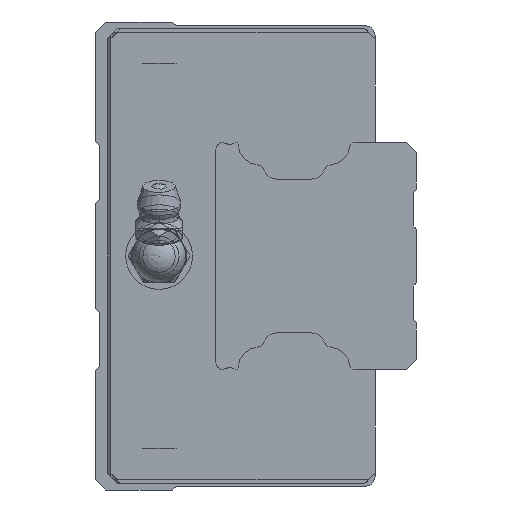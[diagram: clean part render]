
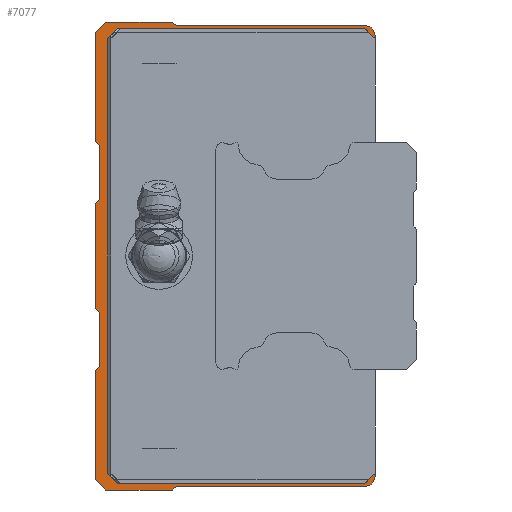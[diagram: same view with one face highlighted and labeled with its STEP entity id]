
A CAD part, left-side view. The second image highlights one B-rep face of the part: STEP entity #7077.
In plain terms, the highlighted planar face has unit normal (-1, 0, 0).
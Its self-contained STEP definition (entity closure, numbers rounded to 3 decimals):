
#78=LINE('',#11078,#556);
#87=LINE('',#11098,#565);
#96=LINE('',#11116,#574);
#122=LINE('',#11172,#600);
#130=LINE('',#11189,#608);
#138=LINE('',#11206,#616);
#163=LINE('',#11257,#641);
#168=LINE('',#11267,#646);
#172=LINE('',#11274,#650);
#176=LINE('',#11281,#654);
#180=LINE('',#11290,#658);
#183=LINE('',#11296,#661);
#187=LINE('',#11308,#665);
#191=LINE('',#11323,#669);
#195=LINE('',#11335,#673);
#198=LINE('',#11341,#676);
#201=LINE('',#11347,#679);
#204=LINE('',#11357,#682);
#207=LINE('',#11363,#685);
#211=LINE('',#11375,#689);
#215=LINE('',#11387,#693);
#218=LINE('',#11397,#696);
#221=LINE('',#11403,#699);
#225=LINE('',#11415,#703);
#229=LINE('',#11427,#707);
#232=LINE('',#11437,#710);
#556=VECTOR('',#8581,1000.);
#565=VECTOR('',#8596,1000.);
#574=VECTOR('',#8609,1000.);
#600=VECTOR('',#8649,1000.);
#608=VECTOR('',#8661,1000.);
#616=VECTOR('',#8675,1000.);
#641=VECTOR('',#8716,1000.);
#646=VECTOR('',#8723,1000.);
#650=VECTOR('',#8729,1000.);
#654=VECTOR('',#8735,1000.);
#658=VECTOR('',#8741,1000.);
#661=VECTOR('',#8746,1000.);
#665=VECTOR('',#8758,1000.);
#669=VECTOR('',#8776,1000.);
#673=VECTOR('',#8788,1000.);
#676=VECTOR('',#8793,1000.);
#679=VECTOR('',#8798,1000.);
#682=VECTOR('',#8807,1000.);
#685=VECTOR('',#8812,1000.);
#689=VECTOR('',#8824,1000.);
#693=VECTOR('',#8836,1000.);
#696=VECTOR('',#8845,1000.);
#699=VECTOR('',#8850,1000.);
#703=VECTOR('',#8862,1000.);
#707=VECTOR('',#8874,1000.);
#710=VECTOR('',#8883,1000.);
#1066=PLANE('',#7607);
#1597=CIRCLE('',#7563,0.5);
#1599=CIRCLE('',#7567,1.5);
#1601=CIRCLE('',#7570,1.5);
#1603=CIRCLE('',#7574,0.5);
#1607=CIRCLE('',#7584,0.5);
#1609=CIRCLE('',#7588,0.5);
#1613=CIRCLE('',#7596,0.5);
#1615=CIRCLE('',#7600,0.5);
#2347=ORIENTED_EDGE('',*,*,#4029,.T.);
#2348=ORIENTED_EDGE('',*,*,#4038,.T.);
#2349=ORIENTED_EDGE('',*,*,#4113,.F.);
#2350=ORIENTED_EDGE('',*,*,#4137,.F.);
#2351=ORIENTED_EDGE('',*,*,#4134,.F.);
#2352=ORIENTED_EDGE('',*,*,#4131,.T.);
#2353=ORIENTED_EDGE('',*,*,#4128,.F.);
#2354=ORIENTED_EDGE('',*,*,#4125,.F.);
#2355=ORIENTED_EDGE('',*,*,#4121,.F.);
#2356=ORIENTED_EDGE('',*,*,#4199,.F.);
#2357=ORIENTED_EDGE('',*,*,#4194,.F.);
#2358=ORIENTED_EDGE('',*,*,#4191,.T.);
#2359=ORIENTED_EDGE('',*,*,#4188,.F.);
#2360=ORIENTED_EDGE('',*,*,#4185,.T.);
#2361=ORIENTED_EDGE('',*,*,#4182,.F.);
#2362=ORIENTED_EDGE('',*,*,#4179,.F.);
#2363=ORIENTED_EDGE('',*,*,#4174,.F.);
#2364=ORIENTED_EDGE('',*,*,#4171,.T.);
#2365=ORIENTED_EDGE('',*,*,#4168,.F.);
#2366=ORIENTED_EDGE('',*,*,#4165,.T.);
#2367=ORIENTED_EDGE('',*,*,#4162,.F.);
#2368=ORIENTED_EDGE('',*,*,#4159,.F.);
#2369=ORIENTED_EDGE('',*,*,#4154,.F.);
#2370=ORIENTED_EDGE('',*,*,#4151,.F.);
#2371=ORIENTED_EDGE('',*,*,#4148,.F.);
#2372=ORIENTED_EDGE('',*,*,#4145,.T.);
#2373=ORIENTED_EDGE('',*,*,#4142,.F.);
#2374=ORIENTED_EDGE('',*,*,#4139,.F.);
#2375=ORIENTED_EDGE('',*,*,#4117,.F.);
#2376=ORIENTED_EDGE('',*,*,#4073,.T.);
#2377=ORIENTED_EDGE('',*,*,#4082,.T.);
#2378=ORIENTED_EDGE('',*,*,#4065,.T.);
#2379=ORIENTED_EDGE('',*,*,#4108,.T.);
#2380=ORIENTED_EDGE('',*,*,#4019,.T.);
#4019=EDGE_CURVE('',#5003,#5002,#78,.T.);
#4029=EDGE_CURVE('',#5002,#5010,#87,.T.);
#4038=EDGE_CURVE('',#5010,#5017,#96,.T.);
#4065=EDGE_CURVE('',#5041,#5040,#122,.T.);
#4073=EDGE_CURVE('',#5048,#5047,#130,.T.);
#4082=EDGE_CURVE('',#5047,#5041,#138,.T.);
#4108=EDGE_CURVE('',#5040,#5003,#163,.T.);
#4113=EDGE_CURVE('',#5075,#5017,#168,.T.);
#4117=EDGE_CURVE('',#5048,#5078,#172,.T.);
#4121=EDGE_CURVE('',#5080,#5081,#176,.T.);
#4125=EDGE_CURVE('',#5081,#5084,#180,.T.);
#4128=EDGE_CURVE('',#5084,#5086,#183,.T.);
#4131=EDGE_CURVE('',#5088,#5086,#1597,.T.);
#4134=EDGE_CURVE('',#5088,#5090,#187,.T.);
#4137=EDGE_CURVE('',#5090,#5075,#1599,.T.);
#4139=EDGE_CURVE('',#5078,#5092,#1601,.T.);
#4142=EDGE_CURVE('',#5092,#5094,#191,.T.);
#4145=EDGE_CURVE('',#5096,#5094,#1603,.T.);
#4148=EDGE_CURVE('',#5096,#5098,#195,.T.);
#4151=EDGE_CURVE('',#5098,#5100,#198,.T.);
#4154=EDGE_CURVE('',#5100,#5102,#201,.T.);
#4159=EDGE_CURVE('',#5102,#5106,#204,.T.);
#4162=EDGE_CURVE('',#5106,#5108,#207,.T.);
#4165=EDGE_CURVE('',#5110,#5108,#1607,.T.);
#4168=EDGE_CURVE('',#5110,#5112,#211,.T.);
#4171=EDGE_CURVE('',#5114,#5112,#1609,.T.);
#4174=EDGE_CURVE('',#5114,#5116,#215,.T.);
#4179=EDGE_CURVE('',#5116,#5120,#218,.T.);
#4182=EDGE_CURVE('',#5120,#5122,#221,.T.);
#4185=EDGE_CURVE('',#5124,#5122,#1613,.T.);
#4188=EDGE_CURVE('',#5124,#5126,#225,.T.);
#4191=EDGE_CURVE('',#5128,#5126,#1615,.T.);
#4194=EDGE_CURVE('',#5128,#5130,#229,.T.);
#4199=EDGE_CURVE('',#5130,#5080,#232,.T.);
#5002=VERTEX_POINT('',#11077);
#5003=VERTEX_POINT('',#11079);
#5010=VERTEX_POINT('',#11097);
#5017=VERTEX_POINT('',#11115);
#5040=VERTEX_POINT('',#11171);
#5041=VERTEX_POINT('',#11173);
#5047=VERTEX_POINT('',#11188);
#5048=VERTEX_POINT('',#11190);
#5075=VERTEX_POINT('',#11266);
#5078=VERTEX_POINT('',#11275);
#5080=VERTEX_POINT('',#11282);
#5081=VERTEX_POINT('',#11283);
#5084=VERTEX_POINT('',#11291);
#5086=VERTEX_POINT('',#11297);
#5088=VERTEX_POINT('',#11303);
#5090=VERTEX_POINT('',#11309);
#5092=VERTEX_POINT('',#11318);
#5094=VERTEX_POINT('',#11324);
#5096=VERTEX_POINT('',#11330);
#5098=VERTEX_POINT('',#11336);
#5100=VERTEX_POINT('',#11342);
#5102=VERTEX_POINT('',#11348);
#5106=VERTEX_POINT('',#11358);
#5108=VERTEX_POINT('',#11364);
#5110=VERTEX_POINT('',#11370);
#5112=VERTEX_POINT('',#11376);
#5114=VERTEX_POINT('',#11382);
#5116=VERTEX_POINT('',#11388);
#5120=VERTEX_POINT('',#11398);
#5122=VERTEX_POINT('',#11404);
#5124=VERTEX_POINT('',#11410);
#5126=VERTEX_POINT('',#11416);
#5128=VERTEX_POINT('',#11422);
#5130=VERTEX_POINT('',#11428);
#5783=EDGE_LOOP('',(#2347,#2348,#2349,#2350,#2351,#2352,#2353,#2354,#2355,
#2356,#2357,#2358,#2359,#2360,#2361,#2362,#2363,#2364,#2365,#2366,#2367,
#2368,#2369,#2370,#2371,#2372,#2373,#2374,#2375,#2376,#2377,#2378,#2379,
#2380));
#6424=FACE_BOUND('',#5783,.T.);
#7077=ADVANCED_FACE('',(#6424),#1066,.F.);
#7563=AXIS2_PLACEMENT_3D('',#11302,#8751,#8752);
#7567=AXIS2_PLACEMENT_3D('',#11314,#8763,#8764);
#7570=AXIS2_PLACEMENT_3D('',#11317,#8769,#8770);
#7574=AXIS2_PLACEMENT_3D('',#11329,#8781,#8782);
#7584=AXIS2_PLACEMENT_3D('',#11369,#8817,#8818);
#7588=AXIS2_PLACEMENT_3D('',#11381,#8829,#8830);
#7596=AXIS2_PLACEMENT_3D('',#11409,#8855,#8856);
#7600=AXIS2_PLACEMENT_3D('',#11421,#8867,#8868);
#7607=AXIS2_PLACEMENT_3D('',#11440,#8887,#8888);
#8581=DIRECTION('',(0.,-0.707,0.707));
#8596=DIRECTION('',(0.,-1.,0.));
#8609=DIRECTION('',(0.,-0.707,-0.707));
#8649=DIRECTION('',(0.,0.707,0.707));
#8661=DIRECTION('',(0.,0.707,-0.707));
#8675=DIRECTION('',(0.,1.,0.));
#8716=DIRECTION('',(0.,0.,1.));
#8723=DIRECTION('',(0.,0.,-1.));
#8729=DIRECTION('',(0.,0.,-1.));
#8735=DIRECTION('',(0.,-0.707,0.707));
#8741=DIRECTION('',(0.,-1.,0.));
#8746=DIRECTION('',(0.,-0.707,-0.707));
#8751=DIRECTION('',(1.,0.,0.));
#8752=DIRECTION('',(0.,0.,-1.));
#8758=DIRECTION('',(0.,-1.,0.));
#8763=DIRECTION('',(1.,0.,0.));
#8764=DIRECTION('',(0.,0.,-1.));
#8769=DIRECTION('',(1.,0.,0.));
#8770=DIRECTION('',(0.,0.,-1.));
#8776=DIRECTION('',(0.,1.,0.));
#8781=DIRECTION('',(1.,0.,0.));
#8782=DIRECTION('',(0.,0.,-1.));
#8788=DIRECTION('',(0.,0.707,-0.707));
#8793=DIRECTION('',(0.,1.,0.));
#8798=DIRECTION('',(0.,0.707,0.707));
#8807=DIRECTION('',(0.,0.,1.));
#8812=DIRECTION('',(0.,-0.707,0.707));
#8817=DIRECTION('',(1.,0.,0.));
#8818=DIRECTION('',(0.,0.,-1.));
#8824=DIRECTION('',(0.,0.,1.));
#8829=DIRECTION('',(1.,0.,0.));
#8830=DIRECTION('',(0.,0.,-1.));
#8836=DIRECTION('',(0.,0.707,0.707));
#8845=DIRECTION('',(0.,0.,1.));
#8850=DIRECTION('',(0.,-0.707,0.707));
#8855=DIRECTION('',(1.,0.,0.));
#8856=DIRECTION('',(0.,0.,-1.));
#8862=DIRECTION('',(0.,0.,1.));
#8867=DIRECTION('',(1.,0.,0.));
#8868=DIRECTION('',(0.,0.,-1.));
#8874=DIRECTION('',(0.,0.707,0.707));
#8883=DIRECTION('',(0.,0.,1.));
#8887=DIRECTION('',(1.,0.,0.));
#8888=DIRECTION('',(0.,0.,-1.));
#11077=CARTESIAN_POINT('',(-51.75,38.5,34.));
#11078=CARTESIAN_POINT('',(-51.75,40.,32.5));
#11079=CARTESIAN_POINT('',(-51.75,40.,32.5));
#11097=CARTESIAN_POINT('',(-51.75,1.5,34.));
#11098=CARTESIAN_POINT('',(-51.75,38.5,34.));
#11115=CARTESIAN_POINT('',(-51.75,0.,32.5));
#11116=CARTESIAN_POINT('',(-51.75,1.5,34.));
#11171=CARTESIAN_POINT('',(-51.75,40.,-32.5));
#11172=CARTESIAN_POINT('',(-51.75,38.5,-34.));
#11173=CARTESIAN_POINT('',(-51.75,38.5,-34.));
#11188=CARTESIAN_POINT('',(-51.75,1.5,-34.));
#11189=CARTESIAN_POINT('',(-51.75,0.,-32.5));
#11190=CARTESIAN_POINT('',(-51.75,0.,-32.5));
#11206=CARTESIAN_POINT('',(-51.75,1.5,-34.));
#11257=CARTESIAN_POINT('',(-51.75,40.,-32.5));
#11266=CARTESIAN_POINT('',(-51.75,0.,33.));
#11267=CARTESIAN_POINT('',(-51.75,0.,33.));
#11274=CARTESIAN_POINT('',(-51.75,0.,33.));
#11275=CARTESIAN_POINT('',(-51.75,0.,-33.));
#11281=CARTESIAN_POINT('',(-51.75,41.8,33.5));
#11282=CARTESIAN_POINT('',(-51.75,41.8,33.5));
#11283=CARTESIAN_POINT('',(-51.75,40.3,35.));
#11290=CARTESIAN_POINT('',(-51.75,40.3,35.));
#11291=CARTESIAN_POINT('',(-51.75,30.3,35.));
#11296=CARTESIAN_POINT('',(-51.75,30.3,35.));
#11297=CARTESIAN_POINT('',(-51.75,29.946,34.646));
#11302=CARTESIAN_POINT('',(-51.75,29.593,35.));
#11303=CARTESIAN_POINT('',(-51.75,29.593,34.5));
#11308=CARTESIAN_POINT('',(-51.75,29.593,34.5));
#11309=CARTESIAN_POINT('',(-51.75,1.5,34.5));
#11314=CARTESIAN_POINT('',(-51.75,1.5,33.));
#11317=CARTESIAN_POINT('',(-51.75,1.5,-33.));
#11318=CARTESIAN_POINT('',(-51.75,1.5,-34.5));
#11323=CARTESIAN_POINT('',(-51.75,1.5,-34.5));
#11324=CARTESIAN_POINT('',(-51.75,29.593,-34.5));
#11329=CARTESIAN_POINT('',(-51.75,29.593,-35.));
#11330=CARTESIAN_POINT('',(-51.75,29.946,-34.646));
#11335=CARTESIAN_POINT('',(-51.75,29.946,-34.646));
#11336=CARTESIAN_POINT('',(-51.75,30.3,-35.));
#11341=CARTESIAN_POINT('',(-51.75,30.3,-35.));
#11342=CARTESIAN_POINT('',(-51.75,40.3,-35.));
#11347=CARTESIAN_POINT('',(-51.75,40.3,-35.));
#11348=CARTESIAN_POINT('',(-51.75,41.8,-33.5));
#11357=CARTESIAN_POINT('',(-51.75,41.8,-33.5));
#11358=CARTESIAN_POINT('',(-51.75,41.8,-17.1));
#11363=CARTESIAN_POINT('',(-51.75,41.8,-17.1));
#11364=CARTESIAN_POINT('',(-51.75,41.346,-16.646));
#11369=CARTESIAN_POINT('',(-51.75,41.7,-16.293));
#11370=CARTESIAN_POINT('',(-51.75,41.2,-16.293));
#11375=CARTESIAN_POINT('',(-51.75,41.2,-16.293));
#11376=CARTESIAN_POINT('',(-51.75,41.2,-8.707));
#11381=CARTESIAN_POINT('',(-51.75,41.7,-8.707));
#11382=CARTESIAN_POINT('',(-51.75,41.346,-8.354));
#11387=CARTESIAN_POINT('',(-51.75,41.346,-8.354));
#11388=CARTESIAN_POINT('',(-51.75,41.8,-7.9));
#11397=CARTESIAN_POINT('',(-51.75,41.8,-7.9));
#11398=CARTESIAN_POINT('',(-51.75,41.8,7.9));
#11403=CARTESIAN_POINT('',(-51.75,41.8,7.9));
#11404=CARTESIAN_POINT('',(-51.75,41.346,8.354));
#11409=CARTESIAN_POINT('',(-51.75,41.7,8.707));
#11410=CARTESIAN_POINT('',(-51.75,41.2,8.707));
#11415=CARTESIAN_POINT('',(-51.75,41.2,8.707));
#11416=CARTESIAN_POINT('',(-51.75,41.2,16.293));
#11421=CARTESIAN_POINT('',(-51.75,41.7,16.293));
#11422=CARTESIAN_POINT('',(-51.75,41.346,16.646));
#11427=CARTESIAN_POINT('',(-51.75,41.346,16.646));
#11428=CARTESIAN_POINT('',(-51.75,41.8,17.1));
#11437=CARTESIAN_POINT('',(-51.75,41.8,17.1));
#11440=CARTESIAN_POINT('',(-51.75,29.593,35.));
